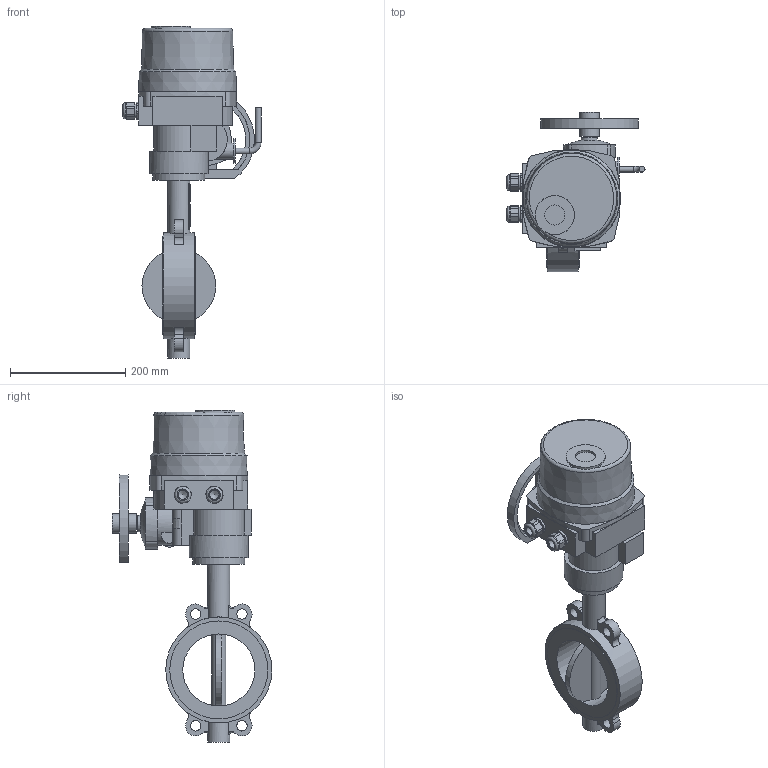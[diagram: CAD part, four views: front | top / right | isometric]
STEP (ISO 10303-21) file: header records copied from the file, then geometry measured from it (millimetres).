
FILE_DESCRIPTION(('STEP AP203'), '1');
FILE_NAME('青蜮铕 015WDN125+菹 QT10-1', '', ('UNSPECIFIED'), ('UNSPECIFIED'), 'ASCON STEP Converter 1.6', 'ASCON Math Kernel', '');
FILE_SCHEMA(('CONFIG_CONTROL_DESIGN'));
Length unit declared in the file: millimetre
Bounding box: 239.5 x 277 x 576 mm (x, y, z)
Volume: 5075447.3 mm3; surface area: 422332.4 mm2
Topology: 2 solids, 3 shells, 845 faces, 2401 edges, 1546 vertices
Faces by surface type: cylinder 542, plane 286, bspline 7, torus 5, cone 5
Full cylindrical faces by diameter (mm): 6.8 x4, 10 x6, 16 x2, 17 x2, 18 x4, 18.9 x1, 20 x1, 22.835 x2, 25 x2, 28 x3, 28.026 x1, 34 x2, 35 x1, 38 x2, 42 x1, 55 x1, 68 x1, 90 x1, 102 x1, 125 x1, 170 x2, 184 x1
Entity records: 36621 total; most frequent: CARTESIAN_POINT 7042, DIRECTION 5143, ORIENTED_EDGE 4633, EDGE_CURVE 2348, AXIS2_PLACEMENT_3D 2007, VERTEX_POINT 1544, CIRCLE 1168, LINE 1129
